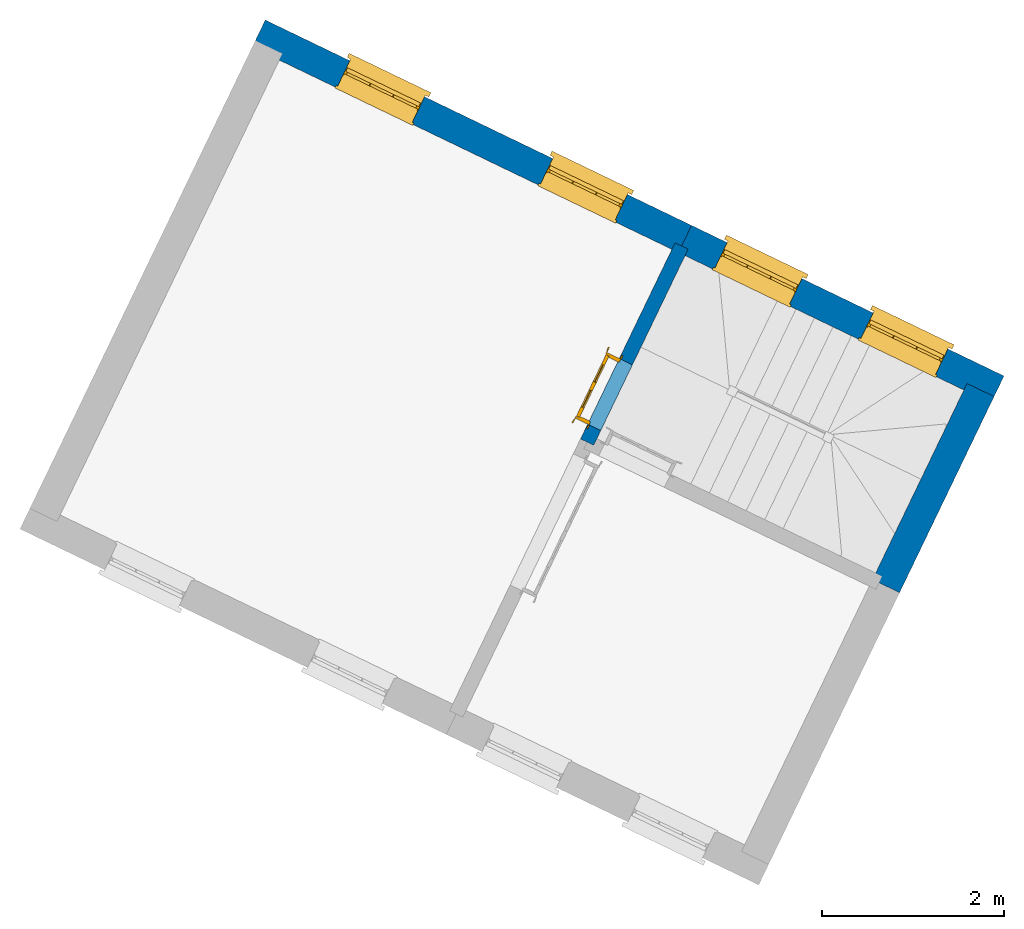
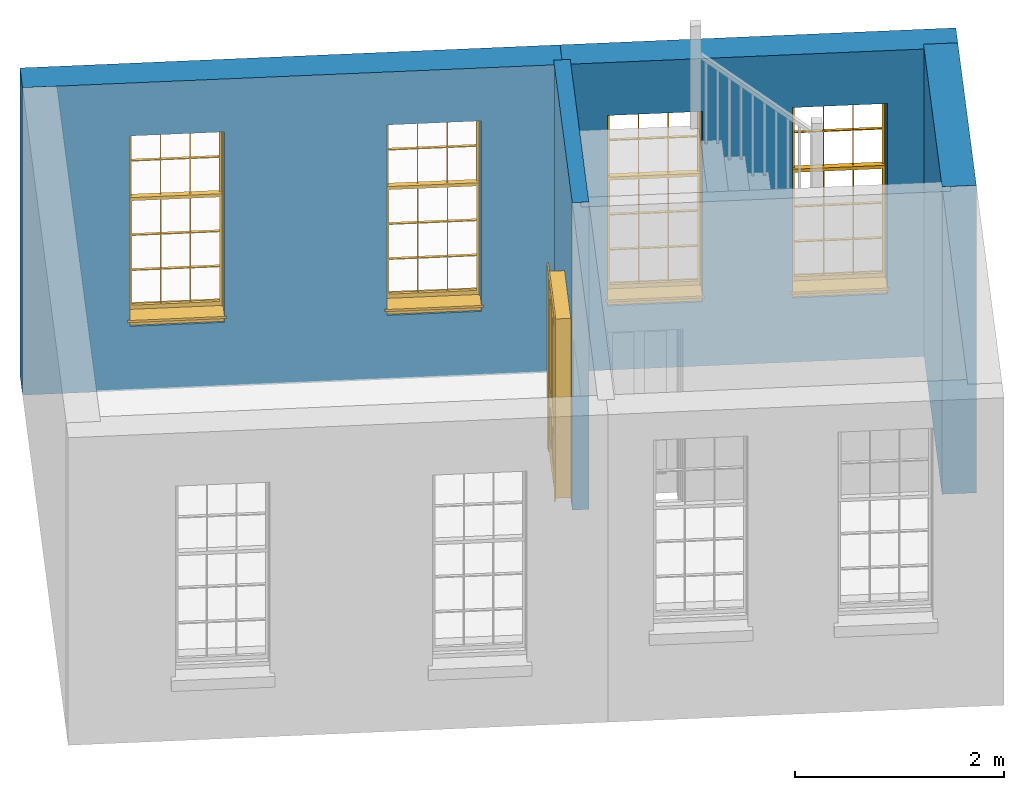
# One storey, part 3 of 3: 4 walls, 4 windows, 1 door, 5 openings.
"""IFC4 building model written with IfcOpenShell, lengths in metres."""

import ifcopenshell
import ifcopenshell.guid

model = None  # the IFC model being written
_history = None  # IfcOwnerHistory: only IFC2X3 demands one
_inside = {}  # id of a spatial element -> (the spatial element, [elements in it])
_under = {}  # id of a project, library or spatial element -> (it, [spatial elements below it])
_declared = {}  # id of a project -> (the project, [libraries it declares])
_typed = {}  # id of a type object -> (the type object, [elements of that type])
_made_of = {}  # id of a material, layer set ... -> (it, [elements and type objects made of it])


def new_model(schema):
    """Start an empty IFC model of exactly this schema.

    Asked for "IFC4X3", IfcOpenShell would pick the latest addendum, in which some entities
    have other attributes; the version numbers below select the first issue.
    IFC2X3 requires an IfcOwnerHistory on every rooted entity: one is made here for all.
    """
    global model, _history
    if schema == "IFC4X3":
        model = ifcopenshell.file(schema_version=(4, 3, 0, 0))
    else:
        model = ifcopenshell.file(schema=schema)
    _inside.clear()
    _under.clear()
    _declared.clear()
    _typed.clear()
    _made_of.clear()
    _history = None
    if model.schema == "IFC2X3":
        org = make("IfcOrganization", Name="unknown")
        user = make(
            "IfcPersonAndOrganization",
            ThePerson=make("IfcPerson", FamilyName="unknown"),
            TheOrganization=org,
        )
        app = make(
            "IfcApplication",
            ApplicationDeveloper=org,
            Version="unknown",
            ApplicationFullName="unknown",
            ApplicationIdentifier="unknown",
        )
        _history = make(
            "IfcOwnerHistory",
            OwningUser=user,
            OwningApplication=app,
            ChangeAction="ADDED",
            CreationDate=0,
        )
    return model


def make(cls, **values):
    """One entity of the class cls with the attributes given. An attribute that is None is left unset."""
    return model.create_entity(
        cls, **{name: value for name, value in values.items() if value is not None}
    )


def rooted(cls, **values):
    """An entity with a GlobalId (a new one), such as an element, a storey or a relation."""
    return make(cls, GlobalId=ifcopenshell.guid.new(), OwnerHistory=_history, **values)


def si_unit(unit_type, name, prefix=None):
    """IfcSIUnit, for example si_unit("LENGTHUNIT", "METRE", prefix="MILLI")."""
    return make("IfcSIUnit", UnitType=unit_type, Prefix=prefix, Name=name)


def assignment(units):
    """IfcUnitAssignment: the units of a project."""
    return None if units is None else make("IfcUnitAssignment", Units=units)


def point(xyz):
    """IfcCartesianPoint."""
    return None if xyz is None else make("IfcCartesianPoint", Coordinates=xyz)


def direction(xyz):
    """IfcDirection."""
    return None if xyz is None else make("IfcDirection", DirectionRatios=xyz)


def frame(location, z_axis=None, x_axis=None):
    """IfcAxis2Placement3D, a coordinate frame: its origin and axes. An axis left out is left unset."""
    return make(
        "IfcAxis2Placement3D",
        Location=point(location),
        Axis=direction(z_axis),
        RefDirection=direction(x_axis),
    )


def origin():
    """The frame at (0, 0, 0) with its axes left unset."""
    return frame((0.0, 0.0, 0.0))


def origin_with_axes():
    """The frame at (0, 0, 0) with the z axis (0, 0, 1) and the x axis (1, 0, 0) written out."""
    return frame((0.0, 0.0, 0.0), z_axis=(0.0, 0.0, 1.0), x_axis=(1.0, 0.0, 0.0))


def place(relative_to, where):
    """IfcLocalPlacement: puts the frame where relative to a parent placement (None: the world)."""
    return make(
        "IfcLocalPlacement", PlacementRelTo=relative_to, RelativePlacement=where
    )


def context(
    kind, dimensions, precision=None, world=None, true_north=None, identifier=None
):
    """IfcGeometricRepresentationContext, for example the 3D "Model" context."""
    return make(
        "IfcGeometricRepresentationContext",
        ContextIdentifier=identifier,
        ContextType=kind,
        CoordinateSpaceDimension=dimensions,
        Precision=precision,
        WorldCoordinateSystem=world,
        TrueNorth=true_north,
    )


def subcontext(parent, identifier, kind, view, scale=None):
    """IfcGeometricRepresentationSubContext, for example "Body" below "Model"."""
    return make(
        "IfcGeometricRepresentationSubContext",
        ContextIdentifier=identifier,
        ContextType=kind,
        ParentContext=parent,
        TargetScale=scale,
        TargetView=view,
    )


def project(units=None, contexts=None):
    """IfcProject with its units and contexts."""
    return rooted(
        "IfcProject",
        Name="project",
        RepresentationContexts=contexts,
        UnitsInContext=assignment(units),
    )


def spatial(cls, under=None, at=None, **own):
    """A site, building, storey or space (cls), placed at a placement, below another one or the project."""
    s = rooted(cls, ObjectPlacement=at, **own)
    if under is not None:
        _under.setdefault(under.id(), (under, []))[1].append(s)
    return s


def polyline(points):
    """IfcPolyline through the points."""
    return make("IfcPolyline", Points=[point(p) for p in points])


def outline(outer, holes=None, kind="AREA"):
    """IfcArbitraryClosedProfileDef: a profile drawn as a closed curve; with holes, ...WithVoids."""
    if holes is None:
        return make("IfcArbitraryClosedProfileDef", ProfileType=kind, OuterCurve=outer)
    return make(
        "IfcArbitraryProfileDefWithVoids",
        ProfileType=kind,
        OuterCurve=outer,
        InnerCurves=holes,
    )


def extrude(swept, where, along, depth):
    """IfcExtrudedAreaSolid: the profile swept, set in the frame where, extruded along a direction by depth."""
    return make(
        "IfcExtrudedAreaSolid",
        SweptArea=swept,
        Position=where,
        ExtrudedDirection=direction(along),
        Depth=depth,
    )


def faces_of(points, faces, orient=None, outer=None):
    """IfcFace entities. A face is a list of loops; a loop is a list of indices into points, from 0.

    orient and outer hold one flag for each loop. By default every Orientation is true, the
    first loop of a face is its IfcFaceOuterBound and the others are IfcFaceBound.
    """
    made = []
    for i, loops in enumerate(faces):
        bounds = []
        for j, loop in enumerate(loops):
            is_outer = j == 0 if outer is None else outer[i][j]
            bounds.append(
                make(
                    "IfcFaceOuterBound" if is_outer else "IfcFaceBound",
                    Bound=make("IfcPolyLoop", Polygon=[points[k] for k in loop]),
                    Orientation=True if orient is None else orient[i][j],
                )
            )
        made.append(make("IfcFace", Bounds=bounds))
    return made


def faceted_brep(points, faces, orient=None, outer=None, voids=None):
    """IfcFacetedBrep: a solid bounded by flat faces; with voids (closed shells), ...WithVoids."""
    shared = [point(p) for p in points]
    hull = make("IfcClosedShell", CfsFaces=faces_of(shared, faces, orient, outer))
    if voids is None:
        return make("IfcFacetedBrep", Outer=hull)
    return make(
        "IfcFacetedBrepWithVoids",
        Outer=hull,
        Voids=[
            make(cls, CfsFaces=faces_of(shared, fs, o, b)) for cls, fs, o, b in voids
        ],
    )


def shape(context_of_items, identifier, shape_type, items):
    """IfcShapeRepresentation: the items that make up one representation, for example the "Body"."""
    return make(
        "IfcShapeRepresentation",
        ContextOfItems=context_of_items,
        RepresentationIdentifier=identifier,
        RepresentationType=shape_type,
        Items=items,
    )


def source(mapping_origin, context_of_items, identifier, shape_type, items):
    """IfcRepresentationMap: a shape defined once, which mapped items show again and again."""
    return make(
        "IfcRepresentationMap",
        MappingOrigin=mapping_origin,
        MappedRepresentation=shape(context_of_items, identifier, shape_type, items),
    )


def transform(
    local_origin,
    x_axis=None,
    y_axis=None,
    z_axis=None,
    scale=None,
    scale2=None,
    scale3=None,
    uniform=True,
):
    """IfcCartesianTransformationOperator3D, or its non-uniform kind. x_axis, y_axis, z_axis: its Axis1, 2, 3."""
    if uniform:
        return make(
            "IfcCartesianTransformationOperator3D",
            Axis1=direction(x_axis),
            Axis2=direction(y_axis),
            LocalOrigin=point(local_origin),
            Scale=scale,
            Axis3=direction(z_axis),
        )
    return make(
        "IfcCartesianTransformationOperator3DnonUniform",
        Axis1=direction(x_axis),
        Axis2=direction(y_axis),
        LocalOrigin=point(local_origin),
        Scale=scale,
        Axis3=direction(z_axis),
        Scale2=scale2,
        Scale3=scale3,
    )


def mapped(mapping_source, mapping_target):
    """IfcMappedItem: shows the shape of a source again, moved by a transform."""
    return make(
        "IfcMappedItem", MappingSource=mapping_source, MappingTarget=mapping_target
    )


def material(Name=None, Category=None):
    """IfcMaterial."""
    return make("IfcMaterial", Name=Name, Category=Category)


def layer(
    of_material, thickness, ventilated=None, Name=None, Category=None, Priority=None
):
    """IfcMaterialLayer: one layer of a wall or slab, of a material (None: an air gap)."""
    return make(
        "IfcMaterialLayer",
        Material=of_material,
        LayerThickness=thickness,
        IsVentilated=ventilated,
        Name=Name,
        Category=Category,
        Priority=Priority,
    )


def layer_set(layers, Name=None):
    """IfcMaterialLayerSet."""
    return make("IfcMaterialLayerSet", MaterialLayers=layers, LayerSetName=Name)


def layer_usage(for_layer_set, set_direction, sense, offset, extent=None):
    """IfcMaterialLayerSetUsage: how a layer set lies in its element."""
    return make(
        "IfcMaterialLayerSetUsage",
        ForLayerSet=for_layer_set,
        LayerSetDirection=set_direction,
        DirectionSense=sense,
        OffsetFromReferenceLine=offset,
        ReferenceExtent=extent,
    )


def made_of(thing, what):
    """Note that an element or type object is made of a material, layer set ...; save() writes the relation."""
    if what is not None:
        _made_of.setdefault(what.id(), (what, []))[1].append(thing)
    return thing


def type_object(cls, material=None, **own):
    """A type object (cls), such as IfcWallType, which elements share."""
    return made_of(rooted(cls, **own), material)


def type_shapes(of_type, sources):
    """Give a type object the sources (RepresentationMaps) that its elements show as mapped items."""
    of_type.RepresentationMaps = sources


def element(
    cls,
    number,
    at=None,
    inside=None,
    cuts=None,
    type_object=None,
    material=None,
    context=None,
    identifier="Body",
    shape_type=None,
    held_by="IfcProductDefinitionShape",
    body=None,
    shapes=None,
    **own,
):
    """One element of the class cls, such as IfcWall. Its Tag is "e" and its number.

    at: its placement. inside: the storey or other place that contains it. cuts: it is an
    opening in that element (IfcRelVoidsElement). A single representation is given by context,
    identifier, shape_type and body (its items); several are given by shapes. held_by: the class
    of the entity that holds the representations. save() writes the other relations.
    """
    e = rooted(cls, Tag="e%d" % number, ObjectPlacement=at, **own)
    if body is not None:
        shapes = [shape(context, identifier, shape_type, body)]
    if shapes is not None:
        e.Representation = make(held_by, Representations=shapes)
    if inside is not None:
        _inside.setdefault(inside.id(), (inside, []))[1].append(e)
    if cuts is not None:
        rooted(
            "IfcRelVoidsElement", RelatingBuildingElement=cuts, RelatedOpeningElement=e
        )
    if type_object is not None:
        _typed.setdefault(type_object.id(), (type_object, []))[1].append(e)
    return made_of(e, material)


def fill(opening, filler):
    """IfcRelFillsElement: the door or window that sits in an opening."""
    return rooted(
        "IfcRelFillsElement",
        RelatingOpeningElement=opening,
        RelatedBuildingElement=filler,
    )


def aggregate(whole, parts):
    """IfcRelAggregates: a whole, such as a stair, and the parts it consists of."""
    return rooted("IfcRelAggregates", RelatingObject=whole, RelatedObjects=parts)


def save(model, path):
    """Write the relations noted so far, then the file.

    IfcRelAggregates (storeys below a building ...), IfcRelContainedInSpatialStructure (elements
    in a storey), IfcRelDefinesByType, IfcRelAssociatesMaterial and IfcRelDeclares: one each for
    every whole, place, type object, material and project.
    """
    for whole, parts in _under.values():
        aggregate(whole, parts)
    for where, things in _inside.values():
        rooted(
            "IfcRelContainedInSpatialStructure",
            RelatedElements=things,
            RelatingStructure=where,
        )
    for kind, things in _typed.values():
        rooted("IfcRelDefinesByType", RelatedObjects=things, RelatingType=kind)
    for what, things in _made_of.values():
        rooted("IfcRelAssociatesMaterial", RelatedObjects=things, RelatingMaterial=what)
    for by, libraries in _declared.values():
        rooted("IfcRelDeclares", RelatingContext=by, RelatedDefinitions=libraries)
    model.write(path)


model = new_model("IFC4")

# Units and contexts
model_context = context("Model", 3, world=origin_with_axes())
body_context = subcontext(model_context, "Body", "Model", "MODEL_VIEW")
ifc_project = project(units=[si_unit("PLANEANGLEUNIT", "RADIAN"), si_unit("MASSUNIT", "GRAM", prefix="KILO"), si_unit("FORCEUNIT", "NEWTON", prefix="KILO"), si_unit("LENGTHUNIT", "METRE"), si_unit("AREAUNIT", "SQUARE_METRE"), si_unit("VOLUMEUNIT", "CUBIC_METRE")], contexts=[model_context, model_context])

# Sites, building, storey
site_1_placement = place(None, origin_with_axes())
site_1 = spatial("IfcSite", under=ifc_project, at=site_1_placement, Name="Tamar")
site_2_placement = place(site_1_placement, origin_with_axes())
site_2 = spatial("IfcSite", under=site_1, at=site_2_placement, Name="Site plot-1", CompositionType="ELEMENT")
building_placement = place(None, origin_with_axes())
building = spatial("IfcBuilding", under=site_2, at=building_placement, Name="Building plot-1", CompositionType="ELEMENT")
storey_placement = place(None, frame((0.0, 0.0, 29.6), z_axis=(0.0, 0.0, 1.0), x_axis=(1.0, 0.0, 0.0)))
storey = spatial("IfcBuildingStorey", under=building, at=storey_placement, Name="plot-1 1", CompositionType="ELEMENT", Elevation=29.6)

# Wall, openings, windows
ifc_material_1 = material(Name="Masonry")
ifc_layer_1 = layer(ifc_material_1, 0.33, ventilated=False)
ifc_layer_set_1 = layer_set([ifc_layer_1], Name="exterior_0.08_0.25")
ifc_layer_usage_1 = layer_usage(ifc_layer_set_1, "AXIS2", "POSITIVE", -0.25)
wall_type_1 = type_object("IfcWallType", Name="exterior_0.08_0.25", PredefinedType="SOLIDWALL", material=ifc_layer_set_1)
wall_1_placement = place(storey_placement, frame((229.506015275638, 296.172674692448, 0.0), z_axis=(0.0, 0.0, 1.0), x_axis=(-0.900856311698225, 0.434117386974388, 0.0)))
wall_1 = element("IfcWall", 1, at=wall_1_placement, inside=storey, type_object=wall_type_1, material=ifc_layer_usage_1, Name="exterior", context=body_context, shape_type="SweptSolid", body=[
    extrude(outline(polyline([(-0.250000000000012, 0.0800000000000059), (-0.250000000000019, -0.250000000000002), (3.55672877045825, -0.249999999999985), (3.55672877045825, 0.0800000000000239), (-0.250000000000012, 0.0800000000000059)])), origin_with_axes(), (0.0, 0.0, 1.0), 3.6),
])
opening_1_placement = place(wall_1_placement, frame((0.43418219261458, 0.0, 0.75)))
opening_1 = element("IfcOpeningElement", 2, at=opening_1_placement, cuts=wall_1, Name="My Opening", ObjectType="Opening", context=body_context, shape_type="SweptSolid", body=[
    extrude(outline(polyline([(0.0, -0.270000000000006), (0.909999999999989, -0.270000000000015), (0.90999999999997, 1.09999999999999), (-1.90403248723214e-14, 1.1), (0.0, -0.270000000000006)])), origin_with_axes(), (0.0, 0.0, 1.0), 2.23),
])
opening_2_placement = place(wall_1_placement, frame((2.21254657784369, 0.0, 0.75)))
opening_2 = element("IfcOpeningElement", 3, at=opening_2_placement, cuts=wall_1, Name="My Opening", ObjectType="Opening", context=body_context, shape_type="SweptSolid", body=[
    extrude(outline(polyline([(0.0, -0.269999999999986), (0.910000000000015, -0.269999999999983), (0.909999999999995, 1.10000000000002), (-1.90958360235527e-14, 1.10000000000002), (0.0, -0.269999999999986)])), origin_with_axes(), (0.0, 0.0, 1.0), 2.23),
])
window_type = type_object("IfcWindowType", Name="sash_big_taller", PartitioningType="DOUBLE_PANEL_HORIZONTAL", PredefinedType="NOTDEFINED")
shared_shape_1 = source(origin(), body_context, "Body", "Brep", [
    faceted_brep([(0.033125, 0.145, 1.385209), (0.01, 0.145, 1.385209), (0.033125, 0.145, 1.786042), (0.876875, 0.145, 1.385209), (0.876875, 0.145, 1.786042), (0.9, 0.145, 1.385209), (0.876875, 0.145, 1.796042), (0.876875, 0.145, 2.196875), (0.9, 0.145, 2.22), (0.033125, 0.145, 2.196875), (0.033125, 0.145, 1.796042), (0.01, 0.145, 2.22), (0.876875, 0.115, 1.786042), (0.876875, 0.115, 1.385209), (0.9, 0.115, 1.347084), (0.033125, 0.115, 2.196875), (0.01, 0.115, 2.22), (0.033125, 0.115, 1.796042), (0.01, 0.115, 1.347084), (0.033125, 0.115, 1.385209), (0.033125, 0.115, 1.786042), (0.876875, 0.115, 2.196875), (0.876875, 0.115, 1.796042), (0.9, 0.115, 2.22), (0.033125, 0.145, 1.347084), (0.01, 0.145, 1.347084), (0.033125, 0.145, 0.94625), (0.876875, 0.145, 1.347084), (0.876875, 0.145, 0.94625), (0.9, 0.145, 1.347084), (0.876875, 0.145, 0.52625), (0.876875, 0.145, 0.125417), (0.9, 0.145, 0.077167), (0.033125, 0.145, 0.125417), (0.033125, 0.145, 0.52625), (0.01, 0.145, 0.077167), (-0.0425, 0.0, 0.01), (-0.0425, -0.05, 0.001667), (0.0, 0.0, 0.01), (0.9525, 0.0, 0.01), (0.91, 0.0, 0.01), (0.9525, -0.05, 0.001667), (-0.02, 0.33, 0.077167), (0.0, 0.33, 0.077167), (-0.02, 0.36, 0.077167), (0.0, 0.19, 0.077167), (0.01, 0.19, 0.077167), (0.91, 0.19, 0.077167), (0.91, 0.33, 0.077167), (0.9, 0.19, 0.077167), (0.93, 0.33, 0.077167), (0.93, 0.36, 0.077167), (0.01, 0.175, 1.385209), (0.9, 0.175, 1.385209), (0.876875, 0.175, 0.125417), (0.876875, 0.175, 0.52625), (0.9, 0.175, 0.077167), (0.876875, 0.175, 0.94625), (0.876875, 0.175, 1.347084), (0.033125, 0.175, 0.125417), (0.01, 0.175, 0.077167), (0.033125, 0.175, 0.52625), (0.033125, 0.175, 1.347084), (0.033125, 0.175, 0.94625), (-0.02, 0.33, 0.052167), (-0.02, 0.36, 0.052167), (0.93, 0.36, 0.052167), (0.93, 0.33, 0.052167), (0.91, 0.33, 0.052167), (0.0, 0.33, 0.052167), (0.91, 0.1, 0.026667), (0.0, 0.1, 0.026667), (-0.0425, -0.05, -0.123333), (0.9525, -0.05, -0.123333), (-0.0425, 0.0, -0.123333), (0.9525, 0.0, -0.123333), (0.01, 0.19, 2.22), (0.9, 0.19, 2.22), (0.0, 0.19, 2.23), (0.91, 0.19, 2.23), (0.01, 0.1, 0.077167), (0.9, 0.1, 0.077167), (0.592292, 0.145, 0.125417), (0.592292, 0.175, 0.125417), (0.317708, 0.175, 0.125417), (0.317708, 0.145, 0.125417), (0.592292, 0.145, 0.53625), (0.317708, 0.145, 0.53625), (0.317708, 0.145, 0.52625), (0.592292, 0.145, 0.52625), (0.592292, 0.175, 0.53625), (0.317708, 0.175, 0.53625), (0.592292, 0.115, 1.796042), (0.592292, 0.145, 1.796042), (0.317708, 0.145, 1.796042), (0.317708, 0.115, 1.796042), (0.317708, 0.115, 1.786042), (0.592292, 0.115, 1.786042), (0.317708, 0.145, 1.786042), (0.592292, 0.145, 1.786042), (0.602292, 0.115, 1.786042), (0.592292, 0.115, 1.385209), (0.602292, 0.115, 1.385209), (0.602292, 0.145, 1.385209), (0.592292, 0.145, 1.385209), (0.602292, 0.145, 1.786042), (0.876875, 0.145, 0.53625), (0.876875, 0.175, 0.53625), (0.602292, 0.175, 0.53625), (0.602292, 0.145, 0.53625), (0.317708, 0.175, 0.52625), (0.307708, 0.175, 0.125417), (0.307708, 0.175, 0.52625), (0.602292, 0.175, 0.52625), (0.602292, 0.175, 0.125417), (0.592292, 0.175, 0.52625), (0.307708, 0.175, 0.53625), (0.033125, 0.175, 0.53625), (0.317708, 0.175, 1.347084), (0.317708, 0.175, 0.94625), (0.307708, 0.175, 0.94625), (0.307708, 0.175, 1.347084), (0.602292, 0.175, 1.347084), (0.602292, 0.175, 0.94625), (0.592292, 0.175, 0.94625), (0.592292, 0.175, 1.347084), (0.307708, 0.145, 0.52625), (0.307708, 0.145, 0.125417), (0.307708, 0.145, 0.53625), (0.033125, 0.145, 0.53625), (0.307708, 0.145, 1.347084), (0.307708, 0.145, 0.94625), (0.592292, 0.145, 1.347084), (0.592292, 0.145, 0.94625), (0.317708, 0.145, 0.94625), (0.317708, 0.145, 1.347084), (0.602292, 0.145, 0.94625), (0.602292, 0.145, 1.347084), (0.602292, 0.145, 0.52625), (0.602292, 0.145, 0.125417), (0.307708, 0.115, 1.796042), (0.307708, 0.115, 1.786042), (0.307708, 0.115, 1.385209), (0.317708, 0.115, 1.385209), (0.317708, 0.115, 2.196875), (0.307708, 0.115, 2.196875), (0.602292, 0.115, 2.196875), (0.592292, 0.115, 2.196875), (0.602292, 0.115, 1.796042), (0.602292, 0.145, 1.796042), (0.307708, 0.145, 1.796042), (0.307708, 0.145, 2.196875), (0.317708, 0.145, 2.196875), (0.592292, 0.145, 2.196875), (0.602292, 0.145, 2.196875), (0.307708, 0.145, 1.786042), (0.317708, 0.145, 1.385209), (0.307708, 0.145, 1.385209), (0.876875, 0.175, 0.93625), (0.033125, 0.175, 0.93625), (0.033125, 0.145, 0.93625), (0.876875, 0.145, 0.93625), (0.91, 0.1, 2.23), (0.9, 0.1, 2.22), (0.01, 0.1, 2.22), (0.0, 0.1, 2.23), (0.91, 0.0, 0.0), (0.0, 0.0, 0.0), (0.91, 0.33, 0.0), (0.0, 0.33, 0.0), (0.317708, 0.145, 0.93625), (0.592292, 0.145, 0.93625), (0.317708, 0.175, 0.93625), (0.307708, 0.175, 0.93625), (0.602292, 0.175, 0.93625), (0.592292, 0.175, 0.93625), (0.307708, 0.145, 0.93625), (0.602292, 0.145, 0.93625)], [[[0, 1, 2]], [[3, 4, 5]], [[6, 7, 8]], [[9, 10, 11]], [[12, 13, 14]], [[15, 16, 17]], [[18, 19, 20]], [[21, 22, 23]], [[24, 25, 26]], [[27, 28, 29]], [[30, 31, 32]], [[33, 34, 35]], [[14, 27, 29]], [[25, 24, 18]], [[36, 37, 38]], [[39, 40, 41]], [[42, 43, 44]], [[45, 46, 43]], [[47, 48, 49]], [[50, 51, 48]], [[1, 0, 52]], [[5, 53, 3]], [[54, 55, 56]], [[57, 58, 53]], [[59, 60, 61]], [[62, 63, 52]], [[48, 43, 46, 49]], [[51, 44, 43, 48]], [[64, 42, 44, 65]], [[65, 44, 51, 66]], [[66, 51, 50, 67]], [[65, 66, 68, 69]], [[60, 56, 49, 46]], [[70, 71, 38, 40]], [[37, 41, 40, 38]], [[37, 72, 73, 41]], [[74, 75, 73, 72]], [[8, 11, 76, 77]], [[76, 78, 79, 77]], [[32, 35, 80, 81]], [[81, 80, 71, 70]], [[82, 83, 84, 85]], [[86, 87, 88, 89]], [[86, 90, 91, 87]], [[92, 93, 94, 95]], [[92, 95, 96, 97]], [[96, 98, 99, 97]], [[100, 97, 101, 102]], [[103, 104, 99, 105]], [[97, 99, 104, 101]], [[102, 103, 105, 100]], [[106, 107, 108, 109]], [[110, 84, 111, 112]], [[113, 114, 83, 115]], [[116, 112, 61, 117]], [[90, 115, 110, 91]], [[118, 119, 120, 121]], [[122, 123, 124, 125]], [[113, 108, 107, 55]], [[126, 112, 111, 127]], [[34, 61, 112, 126]], [[89, 115, 83, 82]], [[88, 110, 115, 89]], [[85, 84, 110, 88]], [[128, 116, 117, 129]], [[130, 121, 120, 131]], [[132, 125, 124, 133]], [[134, 119, 118, 135]], [[136, 123, 122, 137]], [[138, 113, 55, 30]], [[139, 114, 113, 138]], [[138, 30, 106, 109]], [[88, 126, 127, 85]], [[138, 89, 82, 139]], [[137, 132, 133, 136]], [[128, 129, 34, 126]], [[135, 130, 131, 134]], [[140, 17, 20, 141]], [[96, 141, 142, 143]], [[144, 145, 140, 95]], [[146, 147, 92, 148]], [[100, 12, 22, 148]], [[149, 6, 4, 105]], [[94, 150, 151, 152]], [[149, 93, 153, 154]], [[99, 98, 94, 93]], [[155, 2, 10, 150]], [[156, 157, 155, 98]], [[141, 155, 157, 142]], [[20, 2, 155, 141]], [[143, 156, 98, 96]], [[140, 150, 10, 17]], [[145, 151, 150, 140]], [[147, 153, 93, 92]], [[95, 94, 152, 144]], [[22, 6, 149, 148]], [[148, 149, 154, 146]], [[100, 105, 4, 12]], [[109, 86, 89, 138]], [[108, 113, 115, 90]], [[91, 110, 112, 116]], [[87, 128, 126, 88]], [[97, 100, 148, 92]], [[141, 96, 95, 140]], [[98, 155, 150, 94]], [[105, 99, 93, 149]], [[143, 101, 104, 156]], [[135, 118, 125, 132]], [[144, 152, 153, 147]], [[127, 111, 59, 33]], [[15, 9, 151, 145]], [[146, 154, 7, 21]], [[31, 54, 114, 139]], [[36, 74, 72, 37]], [[39, 41, 73, 75]], [[18, 14, 101, 143]], [[23, 16, 144, 147]], [[83, 56, 60, 84]], [[52, 53, 125, 118]], [[53, 52, 156, 104]], [[11, 8, 153, 152]], [[14, 18, 135, 132]], [[2, 1, 11, 10]], [[8, 5, 4, 6]], [[57, 53, 56, 158]], [[60, 52, 63, 159]], [[26, 25, 35, 160]], [[32, 29, 28, 161]], [[14, 23, 22, 12]], [[18, 20, 17, 16]], [[19, 0, 2, 20]], [[17, 10, 9, 15]], [[12, 4, 3, 13]], [[21, 7, 6, 22]], [[27, 58, 57, 28]], [[30, 55, 54, 31]], [[33, 59, 61, 34]], [[26, 63, 62, 24]], [[5, 8, 77, 53]], [[76, 11, 1, 52]], [[46, 45, 78, 76]], [[49, 77, 79, 47]], [[70, 162, 163, 81]], [[71, 80, 164, 165]], [[19, 142, 157, 0]], [[102, 13, 3, 103]], [[121, 130, 24, 62]], [[29, 32, 81, 14]], [[80, 35, 25, 18]], [[60, 46, 76, 52]], [[77, 49, 56, 53]], [[23, 14, 81, 163]], [[16, 164, 80, 18]], [[35, 85, 127]], [[127, 33, 35]], [[139, 82, 32]], [[32, 31, 139]], [[32, 82, 85, 35]], [[102, 101, 14]], [[14, 13, 102]], [[18, 143, 142]], [[142, 19, 18]], [[146, 21, 23]], [[23, 147, 146]], [[16, 15, 145]], [[145, 144, 16]], [[11, 152, 151]], [[151, 9, 11]], [[154, 153, 8]], [[8, 7, 154]], [[23, 163, 164, 16]], [[162, 165, 164, 163]], [[52, 118, 121]], [[121, 62, 52]], [[125, 53, 122]], [[58, 122, 53]], [[27, 137, 122, 58]], [[56, 83, 114]], [[114, 54, 56]], [[111, 84, 60]], [[60, 59, 111]], [[137, 27, 14]], [[14, 132, 137]], [[130, 135, 18]], [[18, 24, 130]], [[157, 156, 52]], [[52, 0, 157]], [[103, 3, 53]], [[53, 104, 103]], [[79, 78, 165, 162]], [[78, 45, 71, 165]], [[162, 70, 47, 79]], [[166, 75, 74, 167]], [[68, 66, 67]], [[48, 68, 67, 50]], [[69, 64, 65]], [[42, 64, 69, 43]], [[69, 68, 168, 169]], [[70, 68, 48, 47]], [[166, 168, 68, 70]], [[43, 69, 71, 45]], [[69, 169, 167, 71]], [[168, 166, 167, 169]], [[38, 167, 74, 36]], [[71, 167, 38]], [[39, 75, 166, 40]], [[40, 166, 70]], [[133, 134, 170, 171]], [[133, 124, 119, 134]], [[28, 57, 123, 136]], [[172, 91, 116, 173]], [[174, 108, 90, 175]], [[120, 173, 159, 63]], [[124, 175, 172, 119]], [[174, 123, 57, 158]], [[176, 173, 116, 128]], [[160, 159, 173, 176]], [[171, 175, 90, 86]], [[170, 172, 175, 171]], [[87, 91, 172, 170]], [[131, 120, 63, 26]], [[177, 174, 158, 161]], [[109, 108, 174, 177]], [[177, 161, 28, 136]], [[170, 176, 128, 87]], [[177, 171, 86, 109]], [[131, 26, 160, 176]], [[136, 133, 171, 177]], [[123, 174, 175, 124]], [[119, 172, 173, 120]], [[134, 131, 176, 170]], [[129, 117, 159, 160]], [[161, 158, 107, 106]], [[35, 34, 129]], [[35, 129, 160]], [[32, 106, 30]], [[32, 161, 106]], [[56, 55, 107]], [[56, 107, 158]], [[60, 117, 61]], [[60, 159, 117]]]),
])
type_shapes(window_type, [shared_shape_1])
window_1_placement = place(storey_placement, frame((229.232091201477, 296.604391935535, 0.75), z_axis=(0.0, 0.0, 1.0), x_axis=(-0.819779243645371, 0.395046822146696, 0.0)))
window_1 = element("IfcWindow", 4, at=window_1_placement, inside=storey, type_object=window_type, Name="circulation outside window", OverallHeight=2.23, OverallWidth=0.91, context=body_context, shape_type="MappedRepresentation", body=[
    mapped(shared_shape_1, transform((0.0, 0.0, 0.0), scale=1.0)),
])
fill(opening_1, window_1)
window_2_placement = place(storey_placement, frame((227.630040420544, 297.376410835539, 0.75), z_axis=(0.0, 0.0, 1.0), x_axis=(-0.819779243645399, 0.395046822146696, 0.0)))
window_2 = element("IfcWindow", 5, at=window_2_placement, inside=storey, type_object=window_type, Name="circulation outside window", OverallHeight=2.23, OverallWidth=0.91, context=body_context, shape_type="MappedRepresentation", body=[
    mapped(shared_shape_1, transform((0.0, 0.0, 0.0), scale=1.0)),
])
fill(opening_2, window_2)

wall_2_placement = place(storey_placement, frame((226.301913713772, 297.716712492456, 0.0), z_axis=(0.0, 0.0, 1.0), x_axis=(-0.900856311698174, 0.434117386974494, 0.0)))
wall_2 = element("IfcWall", 6, at=wall_2_placement, inside=storey, type_object=wall_type_1, material=ifc_layer_usage_1, Name="exterior", context=body_context, shape_type="SweptSolid", body=[
    extrude(outline(polyline([(-2.27679960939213e-14, 0.0800000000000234), (8.95260343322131e-15, -0.249999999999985), (5.19327122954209, -0.250000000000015), (5.19327122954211, 0.0799999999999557), (-2.27679960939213e-14, 0.0800000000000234)])), origin_with_axes(), (0.0, 0.0, 1.0), 3.6),
])
opening_3_placement = place(wall_2_placement, frame((0.780817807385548, 0.0, 0.75)))
opening_3 = element("IfcOpeningElement", 7, at=opening_3_placement, cuts=wall_2, Name="My Opening", ObjectType="Opening", context=body_context, shape_type="SweptSolid", body=[
    extrude(outline(polyline([(0.0, -0.270000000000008), (0.910000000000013, -0.270000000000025), (0.909999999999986, 1.09999999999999), (-2.74225087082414e-14, 1.10000000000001), (0.0, -0.270000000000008)])), origin_with_axes(), (0.0, 0.0, 1.0), 2.23),
])
opening_4_placement = place(wall_2_placement, frame((3.25245342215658, 0.0, 0.75)))
opening_4 = element("IfcOpeningElement", 8, at=opening_4_placement, cuts=wall_2, Name="My Opening", ObjectType="Opening", context=body_context, shape_type="SweptSolid", body=[
    extrude(outline(polyline([(0.0, -0.269999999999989), (0.910000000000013, -0.270000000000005), (0.909999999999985, 1.10000000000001), (-2.70894418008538e-14, 1.10000000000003), (0.0, -0.269999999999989)])), origin_with_axes(), (0.0, 0.0, 1.0), 2.23),
])
window_3_placement = place(storey_placement, frame((225.715720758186, 298.29891028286, 0.75), z_axis=(0.0, 0.0, 1.0), x_axis=(-0.819779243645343, 0.39504682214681, 0.0)))
window_3 = element("IfcWindow", 9, at=window_3_placement, inside=storey, type_object=window_type, Name="living outside window", OverallHeight=2.23, OverallWidth=0.91, context=body_context, shape_type="MappedRepresentation", body=[
    mapped(shared_shape_1, transform((0.0, 0.0, 0.0), scale=1.0)),
])
fill(opening_3, window_3)
window_4_placement = place(storey_placement, frame((223.489132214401, 299.371890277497, 0.75), z_axis=(0.0, 0.0, 1.0), x_axis=(-0.819779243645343, 0.39504682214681, 0.0)))
window_4 = element("IfcWindow", 10, at=window_4_placement, inside=storey, type_object=window_type, Name="living outside window", OverallHeight=2.23, OverallWidth=0.91, context=body_context, shape_type="MappedRepresentation", body=[
    mapped(shared_shape_1, transform((0.0, 0.0, 0.0), scale=1.0)),
])
fill(opening_4, window_4)

# Wall
ifc_material_2 = material(Name="Masonry")
ifc_layer_2 = layer(ifc_material_2, 0.33, ventilated=False)
ifc_layer_set_2 = layer_set([ifc_layer_2], Name="party_0.08_0.25")
ifc_layer_usage_2 = layer_usage(ifc_layer_set_2, "AXIS2", "POSITIVE", -0.25)
wall_type_2 = type_object("IfcWallType", Name="party_0.08_0.25", PredefinedType="SOLIDWALL", material=ifc_layer_set_2)
wall_3_placement = place(storey_placement, frame((228.468422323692, 294.019519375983, 0.0), z_axis=(0.0, 0.0, 1.0), x_axis=(0.434117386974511, 0.900856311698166, 0.0)))
element("IfcWall", 11, at=wall_3_placement, inside=storey, type_object=wall_type_2, material=ifc_layer_usage_2, Name="party", context=body_context, shape_type="SweptSolid", body=[
    extrude(outline(polyline([(1.36650826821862e-14, 0.0800000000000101), (5.15851675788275e-14, -0.249999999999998), (2.39012069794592, -0.249999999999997), (2.39012069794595, 0.0800000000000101), (1.36650826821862e-14, 0.0800000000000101)])), origin_with_axes(), (0.0, 0.0, 1.0), 3.6),
])

# Wall, opening, door
ifc_material_3 = material(Name="Masonry")
ifc_layer_3 = layer(ifc_material_3, 0.16, ventilated=False)
ifc_layer_set_3 = layer_set([ifc_layer_3], Name="interior_0.08_0.08")
ifc_layer_usage_3 = layer_usage(ifc_layer_set_3, "AXIS2", "POSITIVE", -0.08)
wall_type_3 = type_object("IfcWallType", Name="interior_0.08_0.08", PredefinedType="SOLIDWALL", material=ifc_layer_set_3)
wall_4_placement = place(storey_placement, frame((225.264320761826, 295.563557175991, 0.0), z_axis=(0.0, 0.0, 1.0), x_axis=(0.434117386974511, 0.900856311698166, 0.0)))
wall_4 = element("IfcWall", 12, at=wall_4_placement, inside=storey, type_object=wall_type_3, material=ifc_layer_usage_3, Name="interior", context=body_context, shape_type="SweptSolid", body=[
    extrude(outline(polyline([(1.36650826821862e-14, 0.0800000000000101), (-1.36552855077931e-14, -0.0800000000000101), (2.39012069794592, -0.0800000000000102), (2.39012069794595, 0.0800000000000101), (1.36650826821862e-14, 0.0800000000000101)])), origin_with_axes(), (0.0, 0.0, 1.0), 3.6),
])
opening_5_placement = place(wall_4_placement, frame((0.179999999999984, 0.0, 0.0199999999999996)))
opening_5 = element("IfcOpeningElement", 13, at=opening_5_placement, cuts=wall_4, Name="My Opening", ObjectType="Opening", context=body_context, shape_type="SweptSolid", body=[
    extrude(outline(polyline([(0.0, -0.100000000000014), (0.800000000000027, -0.0999999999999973), (0.800000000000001, 1.09999999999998), (-2.6256774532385e-14, 1.09999999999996), (0.0, -0.100000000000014)])), origin_with_axes(), (0.0, 0.0, 1.0), 2.1),
])
door_type = type_object("IfcDoorType", Name="door_inside", OperationType="SINGLE_SWING_LEFT", PredefinedType="NOTDEFINED")
shared_shape_2 = source(origin(), body_context, "Body", "Brep", [
    faceted_brep([(0.773, 0.33, 1.895), (0.66, 0.33, 1.895), (0.66, 0.33, 2.073), (0.773, 0.33, 2.073), (0.773, 0.33, 0.82), (0.66, 0.33, 0.82), (0.45, 0.33, 1.895), (0.45, 0.33, 2.073), (0.773, 0.33, 0.62), (0.66, 0.33, 0.62), (0.66, 0.315, 0.82), (0.66, 0.315, 1.895), (0.45, 0.315, 1.895), (0.35, 0.33, 1.895), (0.35, 0.33, 2.073), (0.773, 0.33, 0.225), (0.66, 0.33, 0.225), (0.45, 0.33, 0.62), (0.45, 0.33, 0.82), (0.45, 0.315, 0.82), (0.35, 0.33, 0.82), (0.14, 0.33, 2.073), (0.14, 0.33, 1.895), (0.773, 0.33, 0.0), (0.66, 0.33, 0.0), (0.66, 0.315, 0.225), (0.66, 0.315, 0.62), (0.45, 0.315, 0.62), (0.35, 0.33, 0.62), (0.35, 0.315, 0.82), (0.35, 0.315, 1.895), (0.14, 0.315, 1.895), (0.027, 0.33, 2.073), (0.027, 0.33, 1.895), (0.773, 0.292, 0.0), (0.66, 0.292, 0.0), (0.45, 0.33, 0.0), (0.45, 0.33, 0.225), (0.45, 0.315, 0.225), (0.35, 0.33, 0.225), (0.14, 0.33, 0.82), (0.14, 0.33, 0.62), (0.14, 0.315, 0.82), (0.027, 0.33, 0.82), (0.773, 0.292, 0.225), (0.66, 0.292, 0.225), (0.45, 0.292, 0.0), (0.35, 0.33, 0.0), (0.35, 0.315, 0.225), (0.35, 0.315, 0.62), (0.14, 0.315, 0.62), (0.027, 0.33, 0.62), (0.773, 0.292, 0.62), (0.66, 0.292, 0.62), (0.45, 0.292, 0.225), (0.35, 0.292, 0.0), (0.14, 0.33, 0.225), (0.14, 0.33, 0.0), (0.14, 0.315, 0.225), (0.027, 0.33, 0.225), (0.773, 0.292, 0.82), (0.66, 0.292, 0.82), (0.66, 0.307, 0.62), (0.66, 0.307, 0.225), (0.45, 0.307, 0.225), (0.35, 0.292, 0.225), (0.14, 0.292, 0.0), (0.027, 0.33, 0.0), (0.773, 0.292, 1.895), (0.66, 0.292, 1.895), (0.45, 0.292, 0.62), (0.45, 0.292, 0.82), (0.45, 0.307, 0.62), (0.35, 0.292, 0.62), (0.14, 0.292, 0.225), (0.027, 0.292, 0.0), (0.773, 0.292, 2.073), (0.66, 0.292, 2.073), (0.66, 0.307, 1.895), (0.66, 0.307, 0.82), (0.45, 0.307, 0.82), (0.35, 0.292, 0.82), (0.35, 0.307, 0.62), (0.35, 0.307, 0.225), (0.14, 0.307, 0.225), (0.027, 0.292, 0.225), (0.45, 0.292, 1.895), (0.45, 0.292, 2.073), (0.45, 0.307, 1.895), (0.35, 0.292, 1.895), (0.14, 0.292, 0.82), (0.14, 0.292, 0.62), (0.14, 0.307, 0.62), (0.027, 0.292, 0.62), (0.35, 0.292, 2.073), (0.35, 0.307, 1.895), (0.35, 0.307, 0.82), (0.14, 0.307, 0.82), (0.027, 0.292, 0.82), (0.14, 0.292, 2.073), (0.14, 0.292, 1.895), (0.14, 0.307, 1.895), (0.027, 0.292, 1.895), (0.027, 0.292, 2.073), (0.02, 0.335, 0.0), (0.005, 0.34, 0.0), (0.005, 0.34, 2.095), (0.02, 0.335, 2.08), (0.02, 0.33, 0.0), (0.0, 0.335, 0.0), (0.0, 0.335, 2.1), (0.795, 0.34, 2.095), (0.78, 0.335, 2.08), (0.02, 0.33, 2.08), (0.0, 0.33, 0.0), (-0.032, 0.345, 0.0), (-0.032, 0.345, 2.132), (0.8, 0.335, 2.1), (0.795, 0.34, 0.0), (0.78, 0.335, 0.0), (0.78, 0.33, 2.08), (0.04, 0.29, 0.0), (0.025, 0.29, 0.0), (0.025, 0.29, 2.075), (0.04, 0.29, 2.06), (-0.04, 0.34, 0.0), (-0.04, 0.34, 2.14), (0.832, 0.345, 2.132), (0.8, 0.335, 0.0), (0.78, 0.33, 0.0), (0.8, 0.33, 0.0), (0.86, 0.33, 0.0), (0.86, 0.33, 2.16), (0.8, 0.33, 2.1), (-0.06, 0.33, 2.16), (0.0, 0.33, 2.1), (-0.06, 0.33, 0.0), (-0.04, 0.345, 0.0), (-0.04, 0.345, 2.14), (0.84, 0.34, 2.14), (0.832, 0.345, 0.0), (0.84, 0.34, 0.0), (0.86, 0.345, 0.0), (0.86, 0.345, 2.16), (-0.06, 0.345, 2.16), (-0.06, 0.345, 0.0), (0.84, 0.345, 0.0), (0.84, 0.345, 2.14), (-0.025, 0.155, 0.0), (-0.025, 0.16, 0.0), (-0.025, 0.16, 2.125), (-0.025, 0.155, 2.125), (-0.017, 0.155, 0.0), (-0.017, 0.155, 2.117), (0.825, 0.16, 2.125), (0.825, 0.155, 2.125), (0.825, 0.155, 0.0), (0.845, 0.155, 0.0), (-0.045, 0.155, 2.145), (-0.045, 0.155, 0.0), (0.845, 0.155, 2.145), (0.015, 0.165, 0.0), (0.015, 0.165, 2.085), (0.817, 0.155, 2.117), (0.825, 0.16, 0.0), (0.845, 0.17, 0.0), (0.845, 0.17, 2.145), (-0.045, 0.17, 2.145), (-0.045, 0.17, 0.0), (0.02, 0.16, 0.0), (0.02, 0.16, 2.08), (0.785, 0.165, 2.085), (0.817, 0.155, 0.0), (0.8, 0.17, 0.0), (0.8, 0.17, 2.1), (0.0, 0.17, 2.1), (0.0, 0.17, 0.0), (0.035, 0.165, 0.0), (0.035, 0.165, 2.065), (0.78, 0.16, 2.08), (0.785, 0.165, 0.0), (0.775, 0.29, 2.075), (0.76, 0.29, 2.06), (0.035, 0.17, 2.065), (0.035, 0.17, 0.0), (0.765, 0.165, 2.065), (0.78, 0.16, 0.0), (0.765, 0.17, 0.0), (0.765, 0.17, 2.065), (0.765, 0.165, 0.0), (0.04, 0.17, 2.06), (0.04, 0.17, 0.0), (0.76, 0.17, 2.06), (0.76, 0.17, 0.0), (0.76, 0.29, 0.0), (0.775, 0.29, 0.0), (0.025, 0.33, 0.0), (0.025, 0.33, 2.075), (0.775, 0.33, 0.0), (0.775, 0.33, 2.075)], [[[0, 1, 2, 3]], [[1, 0, 4, 5]], [[1, 6, 7, 2]], [[8, 9, 5, 4]], [[1, 5, 10, 11]], [[6, 1, 11, 12]], [[6, 13, 14, 7]], [[15, 16, 9, 8]], [[9, 17, 18, 5]], [[5, 18, 19, 10]], [[10, 19, 12, 11]], [[18, 6, 12, 19]], [[18, 20, 13, 6]], [[21, 14, 13, 22]], [[23, 24, 16, 15]], [[9, 16, 25, 26]], [[17, 9, 26, 27]], [[17, 28, 20, 18]], [[13, 20, 29, 30]], [[22, 13, 30, 31]], [[32, 21, 22, 33]], [[34, 35, 24, 23]], [[24, 36, 37, 16]], [[16, 37, 38, 25]], [[25, 38, 27, 26]], [[37, 17, 27, 38]], [[37, 39, 28, 17]], [[40, 20, 28, 41]], [[20, 40, 42, 29]], [[31, 30, 29, 42]], [[40, 22, 31, 42]], [[33, 22, 40, 43]], [[35, 34, 44, 45]], [[35, 46, 36, 24]], [[36, 47, 39, 37]], [[28, 39, 48, 49]], [[41, 28, 49, 50]], [[43, 40, 41, 51]], [[45, 44, 52, 53]], [[46, 35, 45, 54]], [[46, 55, 47, 36]], [[56, 39, 47, 57]], [[39, 56, 58, 48]], [[50, 49, 48, 58]], [[56, 41, 50, 58]], [[51, 41, 56, 59]], [[53, 52, 60, 61]], [[45, 53, 62, 63]], [[54, 45, 63, 64]], [[55, 46, 54, 65]], [[55, 66, 57, 47]], [[59, 56, 57, 67]], [[61, 60, 68, 69]], [[70, 53, 61, 71]], [[53, 70, 72, 62]], [[72, 64, 63, 62]], [[70, 54, 64, 72]], [[65, 54, 70, 73]], [[65, 74, 66, 55]], [[67, 57, 66, 75]], [[69, 68, 76, 77]], [[61, 69, 78, 79]], [[71, 61, 79, 80]], [[73, 70, 71, 81]], [[65, 73, 82, 83]], [[74, 65, 83, 84]], [[74, 85, 75, 66]], [[86, 69, 77, 87]], [[69, 86, 88, 78]], [[88, 80, 79, 78]], [[86, 71, 80, 88]], [[81, 71, 86, 89]], [[73, 81, 90, 91]], [[73, 91, 92, 82]], [[83, 82, 92, 84]], [[91, 74, 84, 92]], [[91, 93, 85, 74]], [[89, 86, 87, 94]], [[81, 89, 95, 96]], [[90, 81, 96, 97]], [[90, 98, 93, 91]], [[94, 99, 100, 89]], [[89, 100, 101, 95]], [[101, 97, 96, 95]], [[100, 90, 97, 101]], [[100, 102, 98, 90]], [[99, 103, 102, 100]], [[32, 103, 99, 21]], [[102, 103, 32, 33]], [[98, 102, 33, 43]], [[21, 99, 94, 14]], [[94, 87, 7, 14]], [[7, 87, 77, 2]], [[76, 3, 2, 77]], [[43, 51, 93, 98]], [[51, 59, 85, 93]], [[67, 75, 85, 59]], [[34, 23, 15, 44]], [[44, 15, 8, 52]], [[52, 8, 4, 60]], [[0, 68, 60, 4]], [[0, 3, 76, 68]], [[104, 105, 106, 107]], [[104, 108, 109, 105]], [[105, 109, 110, 106]], [[107, 106, 111, 112]], [[107, 113, 108, 104]], [[114, 109, 108]], [[109, 115, 116, 110]], [[106, 110, 117, 111]], [[112, 111, 118, 119]], [[113, 107, 112, 120]], [[121, 122, 123, 124]], [[115, 109, 114, 125]], [[115, 125, 126, 116]], [[110, 116, 127, 117]], [[111, 117, 128, 118]], [[118, 128, 129, 119]], [[120, 112, 119, 129]], [[130, 129, 128]], [[130, 131, 132, 133]], [[133, 132, 134, 135]], [[135, 134, 136, 114]], [[136, 125, 114]], [[125, 137, 138, 126]], [[116, 126, 139, 127]], [[117, 127, 140, 128]], [[141, 130, 128, 140]], [[131, 130, 141]], [[131, 142, 143, 132]], [[132, 143, 144, 134]], [[134, 144, 145, 136]], [[137, 125, 136, 145]], [[143, 142, 146]], [[143, 146, 147]], [[137, 145, 144]], [[143, 147, 138]], [[138, 137, 144]], [[143, 138, 144]], [[126, 138, 147, 139]], [[127, 139, 141, 140]], [[142, 131, 141, 146]], [[139, 147, 146, 141]], [[148, 149, 150, 151]], [[149, 152, 153, 150]], [[151, 150, 154, 155]], [[155, 156, 157]], [[158, 159, 148]], [[158, 148, 151]], [[155, 157, 160]], [[158, 151, 155]], [[155, 160, 158]], [[152, 161, 162, 153]], [[150, 153, 163, 154]], [[155, 154, 164, 156]], [[156, 164, 165, 157]], [[157, 165, 166, 160]], [[160, 166, 167, 158]], [[158, 167, 168, 159]], [[161, 169, 170, 162]], [[153, 162, 171, 163]], [[154, 163, 172, 164]], [[165, 164, 173]], [[165, 173, 174, 166]], [[166, 174, 175, 167]], [[167, 175, 176, 168]], [[169, 177, 178, 170]], [[162, 170, 179, 171]], [[163, 171, 180, 172]], [[172, 180, 173, 164]], [[124, 123, 181, 182]], [[183, 178, 177, 184]], [[170, 178, 185, 179]], [[171, 179, 186, 180]], [[187, 173, 180]], [[185, 188, 187, 189]], [[188, 185, 178, 183]], [[179, 185, 189, 186]], [[189, 187, 180, 186]], [[190, 183, 184, 191]], [[192, 188, 183, 190]], [[191, 184, 122, 121]], [[124, 190, 191, 121]], [[193, 187, 188, 192]], [[182, 192, 190, 124]], [[184, 176, 122]], [[194, 195, 187, 193]], [[192, 182, 194, 193]], [[161, 176, 184]], [[114, 108, 122, 176]], [[173, 187, 195]], [[152, 149, 176, 161]], [[169, 161, 184, 177]], [[196, 122, 108]], [[176, 175, 135, 114]], [[173, 195, 129, 130]], [[176, 149, 168]], [[123, 122, 196, 197]], [[196, 108, 113, 197]], [[175, 174, 133, 135]], [[198, 129, 195]], [[133, 174, 173, 130]], [[159, 168, 149, 148]], [[181, 123, 197, 199]], [[197, 113, 120, 199]], [[199, 120, 129, 198]], [[195, 181, 199, 198]], [[195, 194, 182, 181]]]),
])
type_shapes(door_type, [shared_shape_2])
door_placement = place(storey_placement, frame((225.432547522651, 295.682299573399, 0.0199999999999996), z_axis=(0.0, 0.0, 1.0), x_axis=(0.347293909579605, 0.720685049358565, 0.0)))
door = element("IfcDoor", 14, at=door_placement, inside=storey, type_object=door_type, Name="living inside door", OverallHeight=2.1, OverallWidth=0.8, context=body_context, shape_type="MappedRepresentation", body=[
    mapped(shared_shape_2, transform((0.0, 0.0, 0.0), scale=1.0)),
])
fill(opening_5, door)

save(model, "model.ifc")
